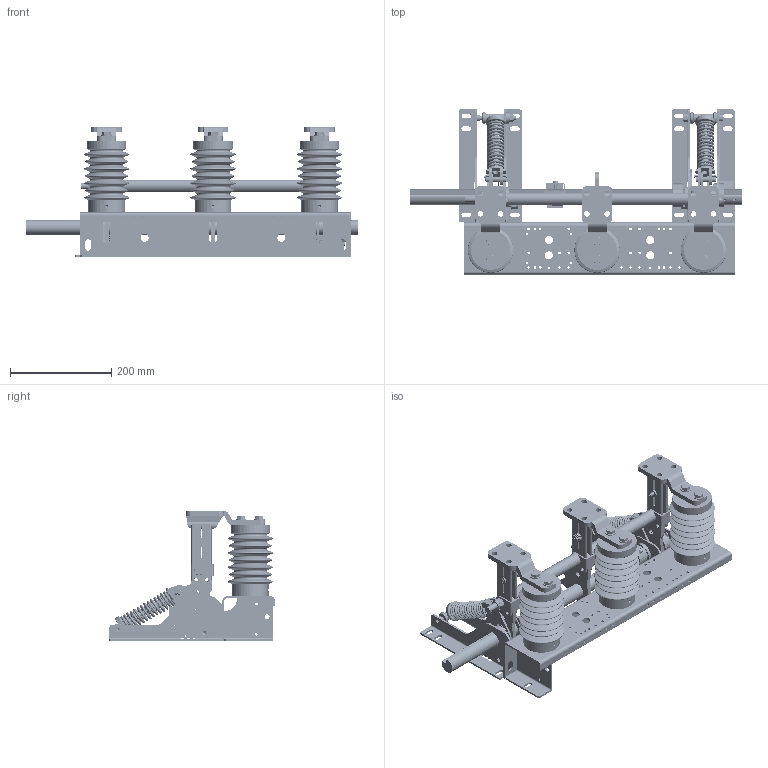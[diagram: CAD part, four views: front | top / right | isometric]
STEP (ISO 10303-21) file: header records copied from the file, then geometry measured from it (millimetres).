
FILE_DESCRIPTION(('STEP AP242'), '1');
FILE_NAME('Ðàçúåäèíèòåëü çàçåìëÿþùèé ñ ìîòîðèçèðîâàííûì ïðèâîäîì ESM-10-31,5-210-I-OptiMat BB', '2023-05-25T08:33:53', (' '), (''), 'C3D Converter', 'C3D Toolkit', '');
FILE_SCHEMA(('AP242_MANAGED_MODEL_BASED_3D_ENGINEERING_MIM_LF { 1 0 10303 442 1 1 4 }'));
Length unit declared in the file: millimetre
Products named in the file (90): ESM-10-31,5-210-I-OptiMat BB; ??; ???; ????:???-M8.0x70.0; ????:???-M8.0x1.6; ?????? - M8.0 x 6.44; ??(??); ?????; ???-?8.0x22; ????:???-M10.0x70.0; ????:???-M10.0x2.0; ?????? - M10.0 x 8.04; ???-?2.0x32; ?; __ 8YF.282.501; ??1; ??2; __ 8YF.282.502; ??4; ????; ??:????-M5.0x10.0; (??)??; ?(??); ???? - M4.0 x 0.8; ????:???-M6.0x16.0; ????:???-M12.0x2.5; ?????? - M12.0 x 10.37; ???? : ?? - M4.0 x 30.0; Основание; ASSEM1; Стенка п; РВЗ-И-10-31,5-150.04; regular circular plain washer_jis_JIS B 1256 Regular circular 10; continuous thread hexagon head bolt_a_jis_JIS B 1180 Continuous thread hexagon head bolt A M10 x 35 --N
Assembly tree (171 placements, depth 3):
  ESM-10-31,5-210-I-OptiMat BB
    (unnamed)
    ??  x2
    (unnamed)
    (unnamed)  x2
      ???
    ????:???-M8.0x70.0  x2
    ????:???-M8.0x1.6  x2
    ?????? - M8.0 x 6.44  x2
    ??(??)  x6
    ???  x6
    ?????  x2
    ???  x2
    ???-?8.0x22  x6
    ????:???-M10.0x70.0  x2
    ????:???-M10.0x2.0  x2
    ?????? - M10.0 x 8.04  x2
    (unnamed)
    ??(??)  x4
    ??  x2
    ???-?2.0x32  x4
    ???  x2
    ??  x4
    ??  x4
    ?  x2
    __ 8YF.282.501  x2
      ??1
      ??2
    __ 8YF.282.502  x2
      ??1
      ??4
    ????  x2
    ????  x4
    ??  x2
    ??:????-M5.0x10.0  x2
    (unnamed)
    (??)??  x3
    ?(??)  x3
    ?  x3
    (unnamed)
    (unnamed)
    (unnamed)
    (unnamed)
    (unnamed)
    (unnamed)
    (unnamed)
    (unnamed)
    (unnamed)
    (unnamed)
    (unnamed)
    ????  x6
    ???? - M4.0 x 0.8  x6
    (unnamed)
    (unnamed)
    (unnamed)
    (unnamed)
    (unnamed)
    (unnamed)
    (unnamed)
    (unnamed)
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Bounding box: 655 x 326 x 256.76 mm (x, y, z)
Volume: 4067027 mm3; surface area: 1281963.8 mm2
Topology: 164 solids, 166 shells, 3129 faces, 8525 edges, 5716 vertices
Faces by surface type: plane 1387, cylinder 1275, cone 338, torus 111, bspline 14, sphere 4
Full cylindrical faces by diameter (mm): 2.5 x22, 2.6 x14, 3 x10, 3.242 x3, 3.4 x2, 4 x12, 4.2 x2, 5 x45, 5.25 x2, 6 x10, 6.2 x41, 7 x4, 7.995 x2, 8 x34, 8.1 x2, 8.2 x8, 8.376 x6, 9 x2, 9.995 x2, 10 x39, 10.2 x4, 11 x23, 12 x3, 12.2 x2, 12.4 x6, 12.5 x12, 13 x4, 13.5 x2, 13.835 x3, 15 x10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
Entity records: 74759 total; most frequent: CARTESIAN_POINT 21012, DIRECTION 7926, ORIENTED_EDGE 6768, EDGE_CURVE 3384, AXIS2_PLACEMENT_3D 3230, VERTEX_POINT 2536, EDGE_LOOP 2152, CIRCLE 1675
